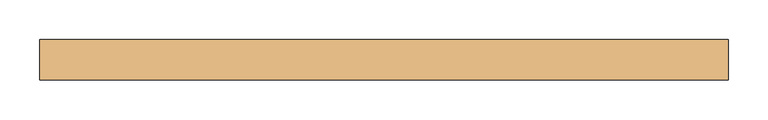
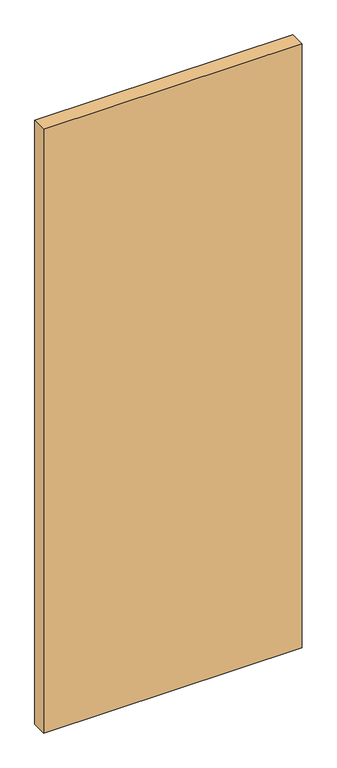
"""IFC4 building model written with IfcOpenShell, lengths in millimetres: door geometry, Planitar - Swap_Flush Panel : Planitar - Swap_Flush Panel."""

from ifc_helpers import new_model, si_unit, origin, origin_with_axes, place, context, project, spatial, polyline, outline, extrude, source, transform, mapped, element, save


def door_24a6677c(model_context):
    return source(origin(), model_context, "Body", "SweptSolid", [
        extrude(outline(polyline([(431.8, -25.4), (-431.8, -25.4), (-431.8, 25.4), (431.8, 25.4), (431.8, -25.4)])), origin_with_axes(), (0.0, 0.0, 1.0), 2133.6),
    ])


if __name__ == "__main__":
    model = new_model("IFC4")
    model_context = context("Model", 3, world=origin())
    ifc_project = project(units=[si_unit("LENGTHUNIT", "METRE", prefix="MILLI")], contexts=[model_context])
    site = spatial("IfcSite", under=ifc_project)
    building = spatial("IfcBuilding", under=site)
    placement = place(None, origin())
    door_shape = door_24a6677c(model_context)
    element("IfcDoor", 1, ObjectType="Planitar - Swap_Flush Panel : Planitar - Swap_Flush Panel", at=placement, inside=building, context=model_context, shape_type="MappedRepresentation", body=[
        mapped(door_shape, transform((0.0, 0.0, 0.0), x_axis=(1.0, 0.0, 0.0), y_axis=(0.0, 1.0, 0.0), z_axis=(0.0, 0.0, 1.0))),
    ])
    save(model, "model.ifc")
